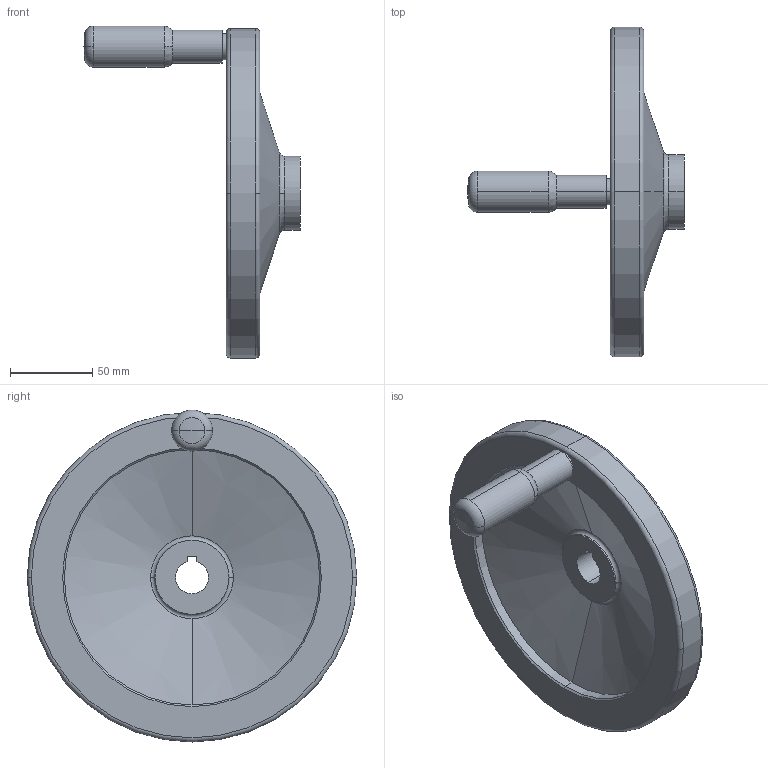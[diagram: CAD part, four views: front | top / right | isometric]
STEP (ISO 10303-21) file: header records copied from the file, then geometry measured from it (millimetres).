
FILE_DESCRIPTION (( 'STEP AP203' ), '1' );
FILE_NAME ('HR20020.STEP', '2024-01-16T10:53:22', ( '' ), ( '' ), 'SwSTEP 2.0', 'SolidWorks 2022', '' );
FILE_SCHEMA (( 'CONFIG_CONTROL_DESIGN' ));
Length unit declared in the file: millimetre
Products named in the file (1): HR20020
Bounding box: 131.43 x 200 x 201.5 mm (x, y, z)
Volume: 440422.5 mm3; surface area: 93337.7 mm2
Topology: 2 solids, 2 shells, 71 faces, 173 edges, 110 vertices
Faces by surface type: cylinder 24, plane 17, cone 14, torus 12, bspline 2, sphere 2
Entity records: 2272 total; most frequent: CARTESIAN_POINT 439, DIRECTION 413, ORIENTED_EDGE 346, AXIS2_PLACEMENT_3D 174, EDGE_CURVE 173, VERTEX_POINT 110, CIRCLE 104, EDGE_LOOP 79
